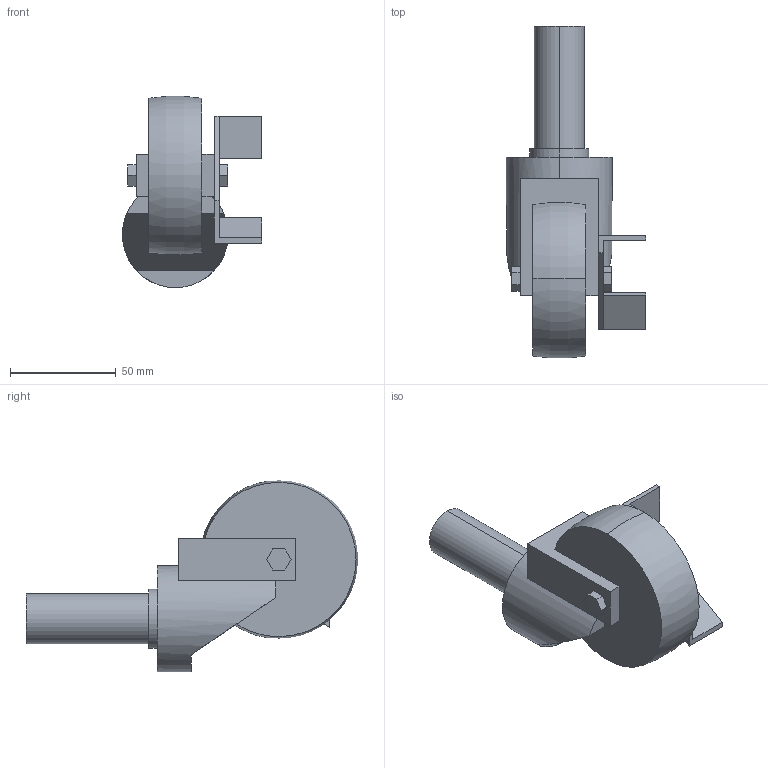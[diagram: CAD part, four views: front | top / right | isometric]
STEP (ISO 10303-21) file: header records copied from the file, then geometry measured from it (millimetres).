
FILE_DESCRIPTION (( 'STEP AP214' ), '1' );
FILE_NAME ('SUS-75SN.step', '2024-02-15T04:32:34', ( 'catia' ), ( 'HP Inc.' ), 'SwSTEP 2.0', 'SolidWorks 2021', '' );
FILE_SCHEMA (( 'AUTOMOTIVE_DESIGN' ));
Length unit declared in the file: millimetre
Products named in the file (1): SUS-75SN
Bounding box: 65.8 x 156.88 x 90.38 mm (x, y, z)
Volume: 217702.9 mm3; surface area: 31313 mm2
Topology: 1 solids, 1 shells, 56 faces, 150 edges, 98 vertices
Faces by surface type: plane 47, cylinder 6, torus 3
Entity records: 1780 total; most frequent: CARTESIAN_POINT 329, ORIENTED_EDGE 300, DIRECTION 284, EDGE_CURVE 150, LINE 120, VECTOR 120, VERTEX_POINT 98, AXIS2_PLACEMENT_3D 82
